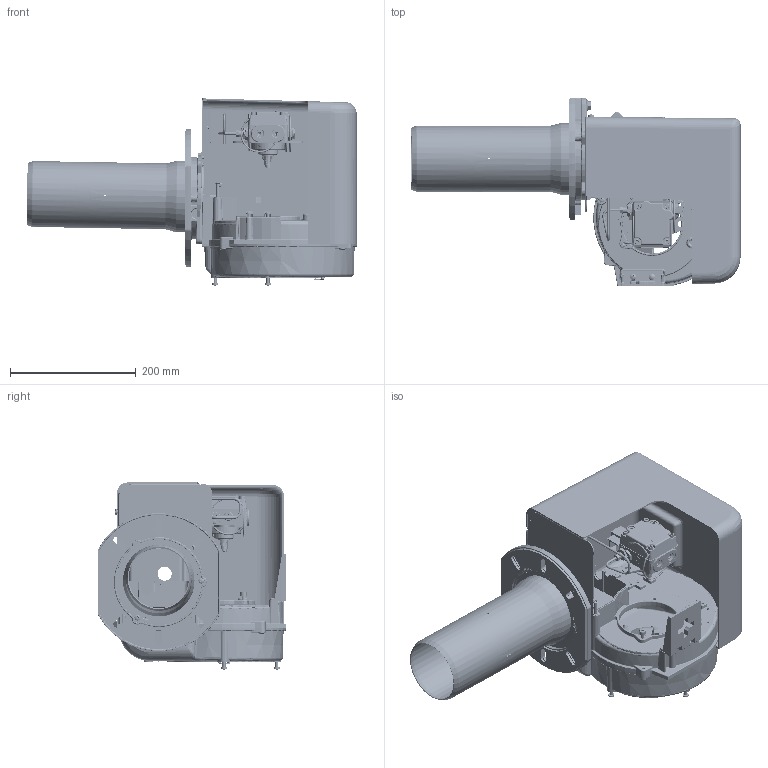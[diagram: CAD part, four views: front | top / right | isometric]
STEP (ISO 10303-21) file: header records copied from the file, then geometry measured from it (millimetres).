
FILE_DESCRIPTION(('STEP AP214'), '1');
FILE_NAME('GARANT-15 L òðóáà 250', '2023-09-21T20:15:20', ('Aleks'), ('1234'), 'ASCON STEP Converter 1.6', 'ASCON Math Kernel', '');
FILE_SCHEMA(('AUTOMOTIVE_DESIGN { 1 0 10303 214 3 1 1}'));
Length unit declared in the file: millimetre
Bounding box: 526.89 x 300.85 x 298.12 mm (x, y, z)
Volume: 324836 mm3; surface area: 1239123.7 mm2
Topology: 23 solids, 30 shells, 6918 faces, 17317 edges, 10753 vertices
Faces by surface type: plane 2805, bspline 1387, cylinder 1334, cone 660, torus 617, sphere 115
Full cylindrical faces by diameter (mm): 1.5 x3, 1.7 x1, 2 x8, 2.1 x1, 2.4 x7, 2.5 x1, 3 x17, 3.1 x1, 3.2 x3, 3.5 x4, 4 x16, 4.1 x1, 4.2 x4, 4.3 x1, 4.4 x1, 4.5 x2, 5 x32, 5.2 x1, 5.5 x3, 5.6 x2, 6 x14, 6.4 x3, 6.6 x1, 6.917 x1, 7 x2, 7.2 x2, 7.8 x1, 8 x17, 8.04 x4, 8.1 x1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
Entity records: 417619 total; most frequent: CARTESIAN_POINT 266192, ORIENTED_EDGE 33066, DIRECTION 27786, EDGE_CURVE 16533, VERTEX_POINT 10700, AXIS2_PLACEMENT_3D 10284, EDGE_LOOP 8133, FACE_BOUND 7371
